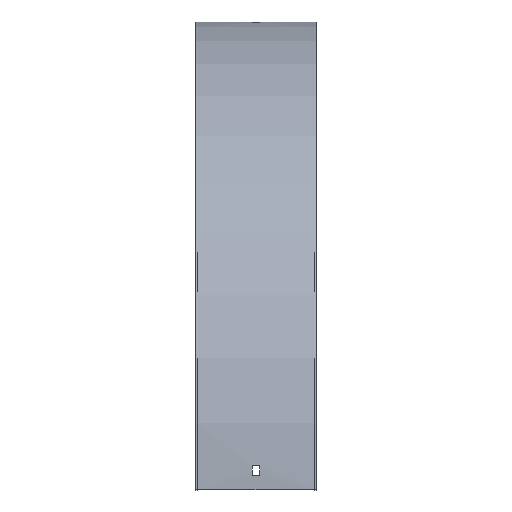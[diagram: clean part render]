
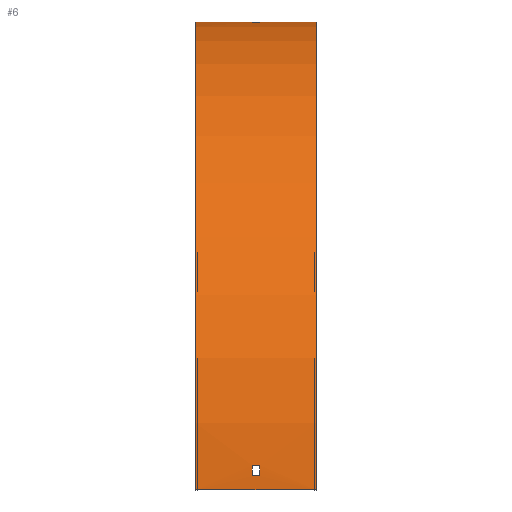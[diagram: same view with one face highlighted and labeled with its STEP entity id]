
A CAD part, top view. The second image highlights one B-rep face of the part: STEP entity #6.
In plain terms, the highlighted cylindrical face has radius 401.5 mm (diameter 803 mm), a partial arc.
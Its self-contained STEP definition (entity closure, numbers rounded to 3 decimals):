
#1 = VERTEX_POINT ( 'NONE', #43 ) ;
#2 = CARTESIAN_POINT ( 'NONE',  ( -3.25, -401.5, 0. ) ) ;
#6 = ADVANCED_FACE ( 'NONE', ( #416, #597, #180 ), #606, .T. ) ;
#8 = CIRCLE ( 'NONE', #499, 401.5 ) ;
#10 = VERTEX_POINT ( 'NONE', #589 ) ;
#24 = CIRCLE ( 'NONE', #220, 401.5 ) ;
#26 = CARTESIAN_POINT ( 'NONE',  ( -51.5, -401.5, 401.5 ) ) ;
#32 = DIRECTION ( 'NONE',  ( 0., 0., 1. ) ) ;
#42 = CARTESIAN_POINT ( 'NONE',  ( 51.5, -0.55, 21. ) ) ;
#43 = CARTESIAN_POINT ( 'NONE',  ( 3.25, -0.55, 21. ) ) ;
#51 = ORIENTED_EDGE ( 'NONE', *, *, #299, .F. ) ;
#52 = CARTESIAN_POINT ( 'NONE',  ( 51.5, 0., 0. ) ) ;
#66 = DIRECTION ( 'NONE',  ( 1., 0., 0. ) ) ;
#69 = VERTEX_POINT ( 'NONE', #26 ) ;
#71 = ORIENTED_EDGE ( 'NONE', *, *, #604, .T. ) ;
#76 = CARTESIAN_POINT ( 'NONE',  ( 3.25, -401.5, 0. ) ) ;
#80 = VERTEX_POINT ( 'NONE', #188 ) ;
#98 = LINE ( 'NONE', #52, #109 ) ;
#100 = ORIENTED_EDGE ( 'NONE', *, *, #539, .T. ) ;
#109 = VECTOR ( 'NONE', #272, 1000. ) ;
#111 = EDGE_CURVE ( 'NONE', #120, #581, #596, .T. ) ;
#114 = DIRECTION ( 'NONE',  ( -1., 0., 0. ) ) ;
#119 = DIRECTION ( 'NONE',  ( 0., 0., -1. ) ) ;
#120 = VERTEX_POINT ( 'NONE', #324 ) ;
#123 = EDGE_CURVE ( 'NONE', #274, #120, #206, .T. ) ;
#140 = DIRECTION ( 'NONE',  ( 1., 0., 0. ) ) ;
#145 = DIRECTION ( 'NONE',  ( 0., 1., 0. ) ) ;
#149 = AXIS2_PLACEMENT_3D ( 'NONE', #76, #114, #159 ) ;
#150 = VERTEX_POINT ( 'NONE', #280 ) ;
#155 = CARTESIAN_POINT ( 'NONE',  ( -3.25, -401.5, 0. ) ) ;
#159 = DIRECTION ( 'NONE',  ( 0., 0., 1. ) ) ;
#161 = EDGE_CURVE ( 'NONE', #1, #163, #322, .T. ) ;
#163 = VERTEX_POINT ( 'NONE', #431 ) ;
#170 = VECTOR ( 'NONE', #484, 1000. ) ;
#178 = CARTESIAN_POINT ( 'NONE',  ( 51.5, -0.179, 12. ) ) ;
#180 = FACE_BOUND ( 'NONE', #583, .T. ) ;
#186 = DIRECTION ( 'NONE',  ( -1., 0., 0. ) ) ;
#188 = CARTESIAN_POINT ( 'NONE',  ( 3.25, -380.5, 400.95 ) ) ;
#192 = AXIS2_PLACEMENT_3D ( 'NONE', #369, #186, #32 ) ;
#198 = CARTESIAN_POINT ( 'NONE',  ( 3.25, -401.5, 0. ) ) ;
#200 = AXIS2_PLACEMENT_3D ( 'NONE', #352, #66, #119 ) ;
#201 = DIRECTION ( 'NONE',  ( -1., 0., 0. ) ) ;
#204 = VERTEX_POINT ( 'NONE', #301 ) ;
#206 = CIRCLE ( 'NONE', #343, 401.5 ) ;
#220 = AXIS2_PLACEMENT_3D ( 'NONE', #540, #314, #498 ) ;
#225 = ORIENTED_EDGE ( 'NONE', *, *, #338, .F. ) ;
#226 = DIRECTION ( 'NONE',  ( 1., 0., 0. ) ) ;
#233 = CIRCLE ( 'NONE', #200, 401.5 ) ;
#249 = EDGE_CURVE ( 'NONE', #10, #1, #447, .T. ) ;
#253 = VECTOR ( 'NONE', #140, 1000. ) ;
#257 = DIRECTION ( 'NONE',  ( -1., 0., 0. ) ) ;
#267 = EDGE_CURVE ( 'NONE', #163, #339, #8, .T. ) ;
#272 = DIRECTION ( 'NONE',  ( -1., 0., 0. ) ) ;
#274 = VERTEX_POINT ( 'NONE', #337 ) ;
#280 = CARTESIAN_POINT ( 'NONE',  ( 51.5, 0., 0. ) ) ;
#294 = DIRECTION ( 'NONE',  ( 0., 0., -1. ) ) ;
#296 = LINE ( 'NONE', #478, #170 ) ;
#299 = EDGE_CURVE ( 'NONE', #80, #274, #296, .T. ) ;
#301 = CARTESIAN_POINT ( 'NONE',  ( 51.5, -401.5, 401.5 ) ) ;
#306 = VECTOR ( 'NONE', #257, 1000. ) ;
#307 = ORIENTED_EDGE ( 'NONE', *, *, #249, .T. ) ;
#308 = LINE ( 'NONE', #502, #306 ) ;
#310 = ORIENTED_EDGE ( 'NONE', *, *, #349, .F. ) ;
#314 = DIRECTION ( 'NONE',  ( 1., 0., 0. ) ) ;
#316 = CARTESIAN_POINT ( 'NONE',  ( -51.5, 0., 0. ) ) ;
#320 = VERTEX_POINT ( 'NONE', #316 ) ;
#322 = LINE ( 'NONE', #42, #511 ) ;
#324 = CARTESIAN_POINT ( 'NONE',  ( -3.25, -389.5, 401.321 ) ) ;
#333 = CIRCLE ( 'NONE', #149, 401.5 ) ;
#337 = CARTESIAN_POINT ( 'NONE',  ( -3.25, -380.5, 400.95 ) ) ;
#338 = EDGE_CURVE ( 'NONE', #581, #80, #333, .T. ) ;
#339 = VERTEX_POINT ( 'NONE', #350 ) ;
#343 = AXIS2_PLACEMENT_3D ( 'NONE', #2, #467, #145 ) ;
#347 = DIRECTION ( 'NONE',  ( -1., 0., 0. ) ) ;
#349 = EDGE_CURVE ( 'NONE', #204, #69, #308, .T. ) ;
#350 = CARTESIAN_POINT ( 'NONE',  ( -3.25, -0.179, 12. ) ) ;
#352 = CARTESIAN_POINT ( 'NONE',  ( -51.5, -401.5, 0. ) ) ;
#363 = ORIENTED_EDGE ( 'NONE', *, *, #111, .F. ) ;
#369 = CARTESIAN_POINT ( 'NONE',  ( 51.5, -401.5, 0. ) ) ;
#376 = CARTESIAN_POINT ( 'NONE',  ( 3.25, -389.5, 401.321 ) ) ;
#380 = EDGE_LOOP ( 'NONE', ( #562, #542, #469, #307 ) ) ;
#381 = ORIENTED_EDGE ( 'NONE', *, *, #434, .F. ) ;
#391 = AXIS2_PLACEMENT_3D ( 'NONE', #198, #570, #294 ) ;
#415 = CARTESIAN_POINT ( 'NONE',  ( 51.5, -389.5, 401.321 ) ) ;
#416 = FACE_OUTER_BOUND ( 'NONE', #535, .T. ) ;
#431 = CARTESIAN_POINT ( 'NONE',  ( -3.25, -0.55, 21. ) ) ;
#434 = EDGE_CURVE ( 'NONE', #150, #204, #24, .T. ) ;
#447 = CIRCLE ( 'NONE', #391, 401.5 ) ;
#467 = DIRECTION ( 'NONE',  ( 1., 0., 0. ) ) ;
#469 = ORIENTED_EDGE ( 'NONE', *, *, #520, .T. ) ;
#478 = CARTESIAN_POINT ( 'NONE',  ( 51.5, -380.5, 400.95 ) ) ;
#484 = DIRECTION ( 'NONE',  ( -1., 0., 0. ) ) ;
#498 = DIRECTION ( 'NONE',  ( 0., 0., -1. ) ) ;
#499 = AXIS2_PLACEMENT_3D ( 'NONE', #155, #347, #529 ) ;
#502 = CARTESIAN_POINT ( 'NONE',  ( 51.5, -401.5, 401.5 ) ) ;
#504 = LINE ( 'NONE', #178, #533 ) ;
#509 = ORIENTED_EDGE ( 'NONE', *, *, #123, .F. ) ;
#511 = VECTOR ( 'NONE', #201, 1000. ) ;
#520 = EDGE_CURVE ( 'NONE', #339, #10, #504, .T. ) ;
#529 = DIRECTION ( 'NONE',  ( 0., 0., 1. ) ) ;
#533 = VECTOR ( 'NONE', #226, 1000. ) ;
#535 = EDGE_LOOP ( 'NONE', ( #71, #310, #381, #100 ) ) ;
#539 = EDGE_CURVE ( 'NONE', #150, #320, #98, .T. ) ;
#540 = CARTESIAN_POINT ( 'NONE',  ( 51.5, -401.5, 0. ) ) ;
#542 = ORIENTED_EDGE ( 'NONE', *, *, #267, .T. ) ;
#562 = ORIENTED_EDGE ( 'NONE', *, *, #161, .T. ) ;
#570 = DIRECTION ( 'NONE',  ( 1., 0., 0. ) ) ;
#581 = VERTEX_POINT ( 'NONE', #376 ) ;
#583 = EDGE_LOOP ( 'NONE', ( #509, #51, #225, #363 ) ) ;
#589 = CARTESIAN_POINT ( 'NONE',  ( 3.25, -0.179, 12. ) ) ;
#596 = LINE ( 'NONE', #415, #253 ) ;
#597 = FACE_BOUND ( 'NONE', #380, .T. ) ;
#604 = EDGE_CURVE ( 'NONE', #320, #69, #233, .T. ) ;
#606 = CYLINDRICAL_SURFACE ( 'NONE', #192, 401.5 ) ;
